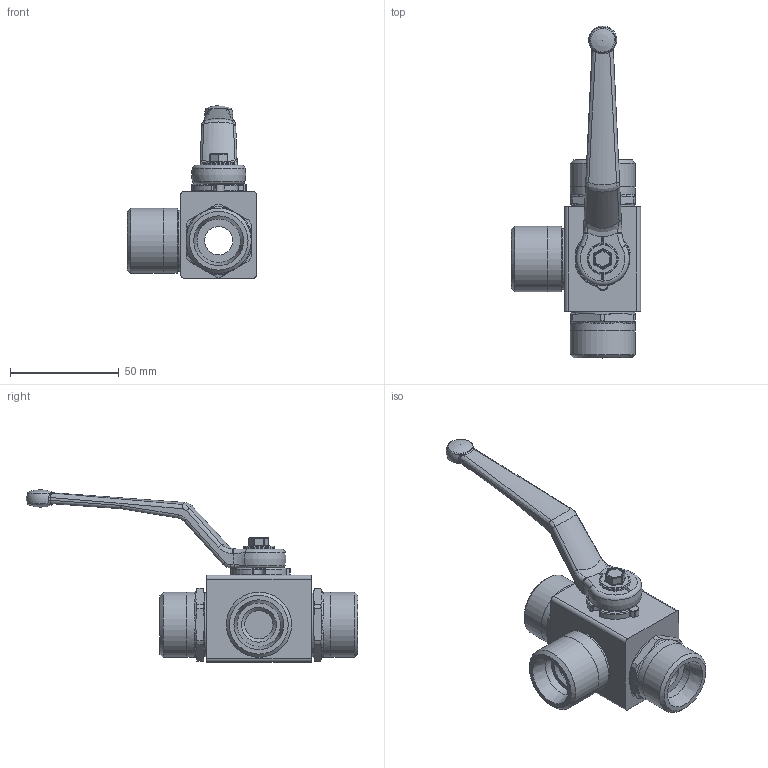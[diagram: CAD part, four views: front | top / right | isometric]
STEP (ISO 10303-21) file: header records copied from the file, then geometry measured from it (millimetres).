
FILE_DESCRIPTION( ( 'Unknown' ), '1' );
FILE_NAME( 'H:/PISTER/3D-MODELLE/BK3 stp/BK3 DN13 20S.stp', 'Unknown', ( 'Unknown' ), ( 'Unknown' ), 'PSStep 14.0', 'Unknown', ' ' );
FILE_SCHEMA( ( 'AUTOMOTIVE_DESIGN { 1 0 10303 214 1 1 1 1 }' ) );
Length unit declared in the file: millimetre
Products named in the file (10): Assem1; 06-013-102-oa7; 09-09-002; 58-28740-07-oa8; Griff_SW9; 58-0933-133; 04-013-134-oa9; 04-013-134-oa10; 01-013-026-oa11; 04-013-074-oa12
Assembly tree (9 placements, depth 2):
  Assem1
    06-013-102-oa7
    09-09-002
    58-28740-07-oa8
    Griff_SW9
    58-0933-133
    04-013-134-oa9
    04-013-134-oa10
    01-013-026-oa11
    04-013-074-oa12
Bounding box: 59.5 x 152.5 x 79.3 mm (x, y, z)
Volume: 55277.4 mm3; surface area: 36670.5 mm2
Topology: 9 solids, 9 shells, 413 faces, 1032 edges, 601 vertices
Faces by surface type: cylinder 132, plane 115, bspline 66, torus 50, cone 30, sphere 20
Full cylindrical faces by diameter (mm): 4.2 x1, 4.98 x1, 5 x1, 13 x3, 14 x2, 14.3 x1, 20 x3, 27 x2, 28 x1, 28.1 x1, 29.5 x2, 30 x8
Entity records: 17878 total; most frequent: CARTESIAN_POINT 5472, DIRECTION 1887, ORIENTED_EDGE 1810, EDGE_CURVE 905, AXIS2_PLACEMENT_3D 783, VERTEX_POINT 573, EDGE_LOOP 496, FACE_OUTER_BOUND 449
